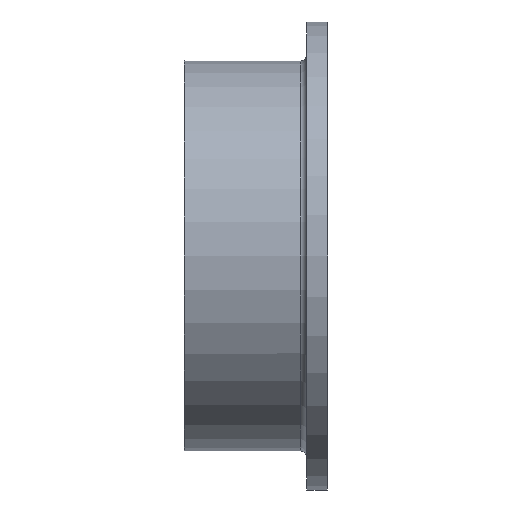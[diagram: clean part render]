
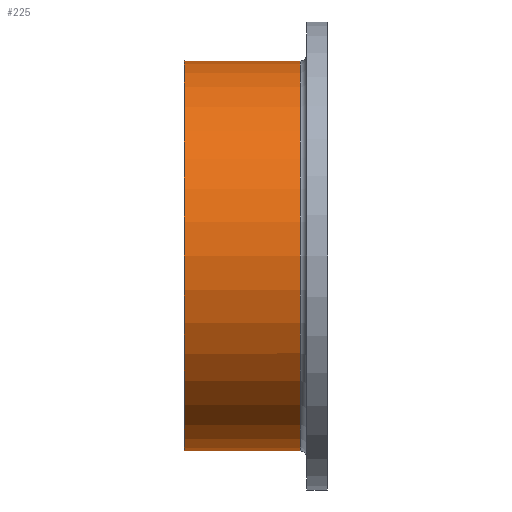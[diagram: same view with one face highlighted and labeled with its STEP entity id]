
A CAD part, front view. The second image highlights one B-rep face of the part: STEP entity #225.
In plain terms, the highlighted cylindrical face has radius 75 mm (diameter 150 mm), a partial arc.
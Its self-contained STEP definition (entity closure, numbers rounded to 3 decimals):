
#24 = DIRECTION ( 'NONE',  ( -1., 0., 0. ) ) ;
#41 = LINE ( 'NONE', #674, #1118 ) ;
#82 = DIRECTION ( 'NONE',  ( 0., 0., 1. ) ) ;
#88 = AXIS2_PLACEMENT_3D ( 'NONE', #563, #951, #327 ) ;
#102 = EDGE_CURVE ( 'NONE', #662, #790, #454, .T. ) ;
#110 = CARTESIAN_POINT ( 'NONE',  ( -38.376, 0., 0. ) ) ;
#120 = DIRECTION ( 'NONE',  ( -1., 0., 0. ) ) ;
#145 = CARTESIAN_POINT ( 'NONE',  ( -27.5, 0., 75. ) ) ;
#187 = ORIENTED_EDGE ( 'NONE', *, *, #748, .F. ) ;
#225 = ADVANCED_FACE ( 'NONE', ( #759 ), #233, .T. ) ;
#233 = CYLINDRICAL_SURFACE ( 'NONE', #320, 75. ) ;
#244 = CARTESIAN_POINT ( 'NONE',  ( 17., 0., 75. ) ) ;
#275 = EDGE_CURVE ( 'NONE', #662, #1273, #41, .T. ) ;
#320 = AXIS2_PLACEMENT_3D ( 'NONE', #110, #120, #439 ) ;
#327 = DIRECTION ( 'NONE',  ( 0., 0., 1. ) ) ;
#333 = ORIENTED_EDGE ( 'NONE', *, *, #102, .T. ) ;
#351 = VECTOR ( 'NONE', #24, 1000. ) ;
#408 = CARTESIAN_POINT ( 'NONE',  ( -27.5, 0., -75. ) ) ;
#439 = DIRECTION ( 'NONE',  ( 0., 0., 1. ) ) ;
#454 = CIRCLE ( 'NONE', #913, 75. ) ;
#460 = CARTESIAN_POINT ( 'NONE',  ( -38.376, 0., 75. ) ) ;
#563 = CARTESIAN_POINT ( 'NONE',  ( -27.5, 0., 0. ) ) ;
#662 = VERTEX_POINT ( 'NONE', #1131 ) ;
#674 = CARTESIAN_POINT ( 'NONE',  ( -38.376, 0., -75. ) ) ;
#709 = EDGE_CURVE ( 'NONE', #790, #915, #967, .T. ) ;
#748 = EDGE_CURVE ( 'NONE', #1273, #915, #1050, .T. ) ;
#759 = FACE_OUTER_BOUND ( 'NONE', #891, .T. ) ;
#787 = DIRECTION ( 'NONE',  ( -1., 0., 0. ) ) ;
#790 = VERTEX_POINT ( 'NONE', #244 ) ;
#891 = EDGE_LOOP ( 'NONE', ( #1128, #333, #976, #187 ) ) ;
#913 = AXIS2_PLACEMENT_3D ( 'NONE', #1140, #1245, #82 ) ;
#915 = VERTEX_POINT ( 'NONE', #145 ) ;
#951 = DIRECTION ( 'NONE',  ( -1., 0., 0. ) ) ;
#967 = LINE ( 'NONE', #460, #351 ) ;
#976 = ORIENTED_EDGE ( 'NONE', *, *, #709, .T. ) ;
#1050 = CIRCLE ( 'NONE', #88, 75. ) ;
#1118 = VECTOR ( 'NONE', #787, 1000. ) ;
#1128 = ORIENTED_EDGE ( 'NONE', *, *, #275, .F. ) ;
#1131 = CARTESIAN_POINT ( 'NONE',  ( 17., 0., -75. ) ) ;
#1140 = CARTESIAN_POINT ( 'NONE',  ( 17., 0., 0. ) ) ;
#1245 = DIRECTION ( 'NONE',  ( -1., 0., 0. ) ) ;
#1273 = VERTEX_POINT ( 'NONE', #408 ) ;
